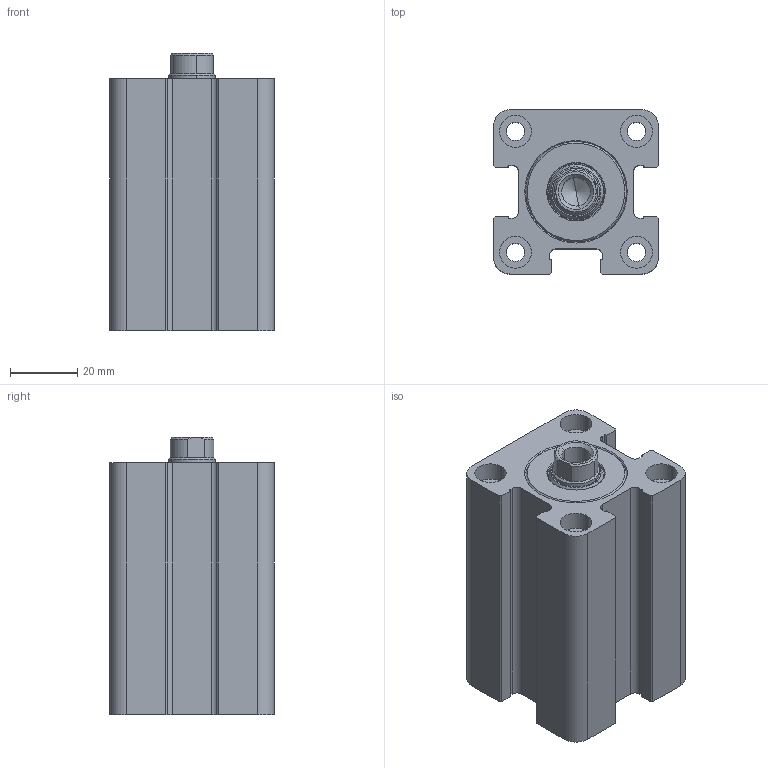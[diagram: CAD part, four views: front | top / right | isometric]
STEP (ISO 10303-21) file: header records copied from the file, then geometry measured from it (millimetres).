
FILE_DESCRIPTION (( 'STEP AP214' ), '1' );
FILE_NAME ('KSWC_03_M_25_14_30.STEP', '2022-09-11T08:50:15', ( '' ), ( '' ), 'SwSTEP 2.0', 'SolidWorks 2021', '' );
FILE_SCHEMA (( 'AUTOMOTIVE_DESIGN' ));
Length unit declared in the file: millimetre
Products named in the file (6): KSWC_03_25_14_烰_KAPAK; K06-14X18_6X2_3X3_3 (K06-014); KSWC_03_25_GOVDE_WEB; KSWC_03_M_25_14_30; KSWC_03_25_14_ON_KAPAK; 14_K_MIL_WEB
Assembly tree (5 placements, depth 3):
  KSWC_03_M_25_14_30
    KSWC_03_25_GOVDE_WEB
    KSWC_03_25_14_ON_KAPAK
      KSWC_03_25_14_烰_KAPAK
      K06-14X18_6X2_3X3_3 (K06-014)
    14_K_MIL_WEB
Bounding box: 49 x 49 x 82.5 mm (x, y, z)
Volume: 130742.3 mm3; surface area: 38829.5 mm2
Topology: 4 solids, 4 shells, 380 faces, 948 edges, 607 vertices
Faces by surface type: plane 139, bspline 121, cylinder 75, cone 45
Entity records: 16146 total; most frequent: CARTESIAN_POINT 7494, ORIENTED_EDGE 1892, DIRECTION 1409, EDGE_CURVE 946, VERTEX_POINT 607, VECTOR 497, LINE 497, AXIS2_PLACEMENT_3D 456
